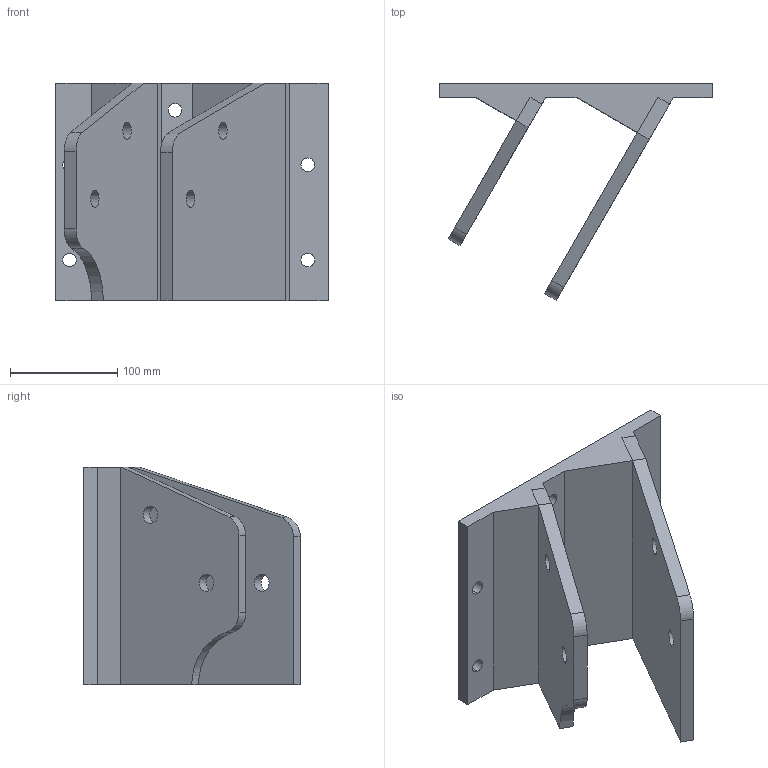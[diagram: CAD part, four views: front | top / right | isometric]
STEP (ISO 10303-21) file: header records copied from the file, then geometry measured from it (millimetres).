
FILE_DESCRIPTION( ( 'STEP AP214' ), '1' );
FILE_NAME( 'C:/PredictiveEngineering/Web Meetings/Solid Geometry Optimization and Meshing/Working with Solid Geometry/Geometry Straight From Your Little CAD Package.STP', ' ', ( 'UGS, Inc.' ), ( 'UGS, Inc.' ), 'PSStep 13.0', 'FEMAP', ' ' );
FILE_SCHEMA( ( 'AUTOMOTIVE_DESIGN { 1 0 10303 214 1 1 1 1 }' ) );
Length unit declared in the file: metre
Products named in the file (4): Assem1; C34S1013-1(FEA)-1; C34S1013-03(ref FEA)-1; C34S1013-05(ref FEA)-1
Bounding box: 254 x 201.9 x 203.21 mm (x, y, z)
Volume: 3675743.7 mm3; surface area: 558028.6 mm2
Topology: 6 solids, 6 shells, 108 faces, 288 edges, 192 vertices
Faces by surface type: plane 60, cylinder 48
Entity records: 2237 total; most frequent: DIRECTION 308, CARTESIAN_POINT 298, ORIENTED_EDGE 288, EDGE_CURVE 144, AXIS2_PLACEMENT_3D 106, VERTEX_POINT 96, LINE 96, VECTOR 96
